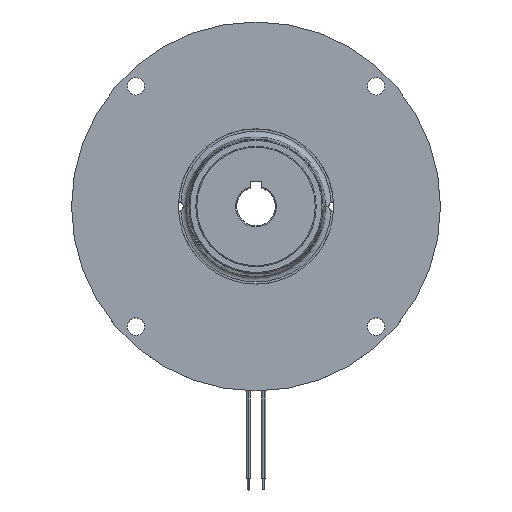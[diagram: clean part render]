
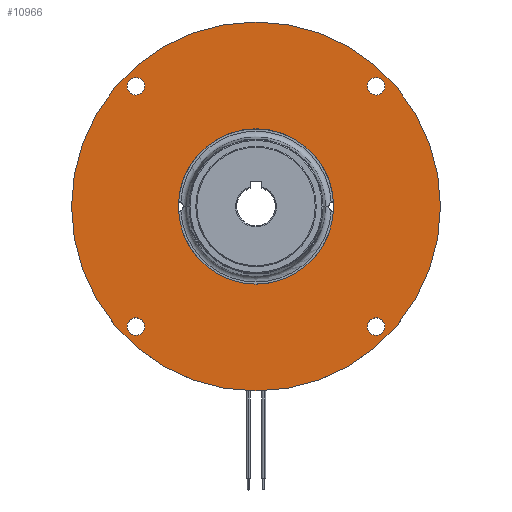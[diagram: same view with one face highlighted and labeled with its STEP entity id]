
A CAD part, top view. The second image highlights one B-rep face of the part: STEP entity #10966.
In plain terms, the highlighted planar face has unit normal (0, 0, 1).
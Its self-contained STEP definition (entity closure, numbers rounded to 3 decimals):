
#25 = EDGE_CURVE ( 'NONE', #9159, #13889, #7757, .T. ) ;
#135 = VERTEX_POINT ( 'NONE', #185 ) ;
#149 = AXIS2_PLACEMENT_3D ( 'NONE', #21875, #6255, #7965 ) ;
#185 = CARTESIAN_POINT ( 'NONE',  ( 57.372, -61.872, 0. ) ) ;
#233 = DIRECTION ( 'NONE',  ( 0., 0., -1. ) ) ;
#642 = DIRECTION ( 'NONE',  ( 0., 0., -1. ) ) ;
#804 = ORIENTED_EDGE ( 'NONE', *, *, #14001, .T. ) ;
#1045 = DIRECTION ( 'NONE',  ( -1., 0., 0. ) ) ;
#1101 = CARTESIAN_POINT ( 'NONE',  ( 61.872, -61.872, 0. ) ) ;
#1376 = EDGE_CURVE ( 'NONE', #15421, #135, #18754, .T. ) ;
#1396 = CARTESIAN_POINT ( 'NONE',  ( 0., 0., 0. ) ) ;
#1473 = FACE_BOUND ( 'NONE', #4017, .T. ) ;
#1585 = EDGE_CURVE ( 'NONE', #135, #15421, #7497, .T. ) ;
#2220 = EDGE_LOOP ( 'NONE', ( #16439, #22515 ) ) ;
#2371 = DIRECTION ( 'NONE',  ( -1., 0., 0. ) ) ;
#2484 = DIRECTION ( 'NONE',  ( 0., 0., -1. ) ) ;
#2611 = DIRECTION ( 'NONE',  ( -1., 0., 0. ) ) ;
#2654 = CIRCLE ( 'NONE', #9241, 4.5 ) ;
#2825 = CARTESIAN_POINT ( 'NONE',  ( 57.372, 61.872, 0. ) ) ;
#2868 = CARTESIAN_POINT ( 'NONE',  ( 0., 0., 0. ) ) ;
#2950 = AXIS2_PLACEMENT_3D ( 'NONE', #4101, #11066, #2371 ) ;
#3045 = CIRCLE ( 'NONE', #3406, 95. ) ;
#3086 = DIRECTION ( 'NONE',  ( 0., 0., -1. ) ) ;
#3406 = AXIS2_PLACEMENT_3D ( 'NONE', #8205, #19239, #19011 ) ;
#3747 = FACE_BOUND ( 'NONE', #2220, .T. ) ;
#3819 = EDGE_CURVE ( 'NONE', #15270, #8868, #22409, .T. ) ;
#3991 = CARTESIAN_POINT ( 'NONE',  ( 0., 95., 0. ) ) ;
#4017 = EDGE_LOOP ( 'NONE', ( #17779, #9995 ) ) ;
#4101 = CARTESIAN_POINT ( 'NONE',  ( -61.872, 61.872, 0. ) ) ;
#4764 = DIRECTION ( 'NONE',  ( -1., 0., 0. ) ) ;
#4948 = DIRECTION ( 'NONE',  ( -1., 0., 0. ) ) ;
#5161 = CARTESIAN_POINT ( 'NONE',  ( 61.872, 61.872, 0. ) ) ;
#5547 = DIRECTION ( 'NONE',  ( -1., 0., 0. ) ) ;
#5681 = CARTESIAN_POINT ( 'NONE',  ( 95., 0., 0. ) ) ;
#5733 = ORIENTED_EDGE ( 'NONE', *, *, #12919, .F. ) ;
#6036 = AXIS2_PLACEMENT_3D ( 'NONE', #5161, #8463, #13625 ) ;
#6075 = EDGE_CURVE ( 'NONE', #11269, #19839, #7521, .T. ) ;
#6131 = AXIS2_PLACEMENT_3D ( 'NONE', #17283, #7026, #13984 ) ;
#6255 = DIRECTION ( 'NONE',  ( 0., 0., -1. ) ) ;
#6321 = CARTESIAN_POINT ( 'NONE',  ( -57.372, -61.872, 0. ) ) ;
#6367 = DIRECTION ( 'NONE',  ( 0., 0., -1. ) ) ;
#6814 = ORIENTED_EDGE ( 'NONE', *, *, #1376, .T. ) ;
#6954 = CARTESIAN_POINT ( 'NONE',  ( -57.372, 61.872, 0. ) ) ;
#7026 = DIRECTION ( 'NONE',  ( 0., 0., -1. ) ) ;
#7074 = PLANE ( 'NONE',  #9771 ) ;
#7182 = EDGE_CURVE ( 'NONE', #13889, #9159, #16429, .T. ) ;
#7497 = CIRCLE ( 'NONE', #10040, 4.5 ) ;
#7521 = CIRCLE ( 'NONE', #10805, 95. ) ;
#7640 = EDGE_LOOP ( 'NONE', ( #22546, #14308 ) ) ;
#7757 = CIRCLE ( 'NONE', #21974, 4.5 ) ;
#7965 = DIRECTION ( 'NONE',  ( -1., 0., 0. ) ) ;
#8205 = CARTESIAN_POINT ( 'NONE',  ( 0., 0., 0. ) ) ;
#8463 = DIRECTION ( 'NONE',  ( 0., 0., -1. ) ) ;
#8526 = ORIENTED_EDGE ( 'NONE', *, *, #6075, .F. ) ;
#8547 = EDGE_LOOP ( 'NONE', ( #5733, #8526 ) ) ;
#8868 = VERTEX_POINT ( 'NONE', #2825 ) ;
#9131 = CARTESIAN_POINT ( 'NONE',  ( -66.372, -61.872, 0. ) ) ;
#9159 = VERTEX_POINT ( 'NONE', #15707 ) ;
#9241 = AXIS2_PLACEMENT_3D ( 'NONE', #15852, #233, #2611 ) ;
#9343 = CARTESIAN_POINT ( 'NONE',  ( -40., 0., 0. ) ) ;
#9413 = CIRCLE ( 'NONE', #6131, 4.5 ) ;
#9771 = AXIS2_PLACEMENT_3D ( 'NONE', #3991, #2484, #19475 ) ;
#9845 = DIRECTION ( 'NONE',  ( 0., 0., -1. ) ) ;
#9995 = ORIENTED_EDGE ( 'NONE', *, *, #7182, .T. ) ;
#10040 = AXIS2_PLACEMENT_3D ( 'NONE', #20199, #3086, #20417 ) ;
#10280 = FACE_BOUND ( 'NONE', #21973, .T. ) ;
#10729 = FACE_BOUND ( 'NONE', #12645, .T. ) ;
#10805 = AXIS2_PLACEMENT_3D ( 'NONE', #21158, #642, #5547 ) ;
#10966 = ADVANCED_FACE ( 'NONE', ( #3747, #10729, #10280, #1473, #17226, #13611 ), #7074, .F. ) ;
#11005 = VERTEX_POINT ( 'NONE', #9131 ) ;
#11066 = DIRECTION ( 'NONE',  ( 0., 0., -1. ) ) ;
#11269 = VERTEX_POINT ( 'NONE', #5681 ) ;
#11853 = DIRECTION ( 'NONE',  ( 0., 0., -1. ) ) ;
#12363 = EDGE_CURVE ( 'NONE', #15488, #22266, #21624, .T. ) ;
#12645 = EDGE_LOOP ( 'NONE', ( #22464, #6814 ) ) ;
#12732 = EDGE_CURVE ( 'NONE', #8868, #15270, #2654, .T. ) ;
#12919 = EDGE_CURVE ( 'NONE', #19839, #11269, #3045, .T. ) ;
#13184 = CARTESIAN_POINT ( 'NONE',  ( 40., 0., 0. ) ) ;
#13611 = FACE_BOUND ( 'NONE', #7640, .T. ) ;
#13625 = DIRECTION ( 'NONE',  ( -1., 0., 0. ) ) ;
#13889 = VERTEX_POINT ( 'NONE', #6954 ) ;
#13984 = DIRECTION ( 'NONE',  ( -1., 0., 0. ) ) ;
#14001 = EDGE_CURVE ( 'NONE', #18793, #11005, #17646, .T. ) ;
#14308 = ORIENTED_EDGE ( 'NONE', *, *, #21521, .T. ) ;
#14957 = CARTESIAN_POINT ( 'NONE',  ( -61.872, 61.872, 0. ) ) ;
#15185 = CARTESIAN_POINT ( 'NONE',  ( -95., 0., 0. ) ) ;
#15270 = VERTEX_POINT ( 'NONE', #22222 ) ;
#15421 = VERTEX_POINT ( 'NONE', #16511 ) ;
#15486 = AXIS2_PLACEMENT_3D ( 'NONE', #1101, #6367, #4764 ) ;
#15488 = VERTEX_POINT ( 'NONE', #9343 ) ;
#15557 = CIRCLE ( 'NONE', #19552, 40. ) ;
#15707 = CARTESIAN_POINT ( 'NONE',  ( -66.372, 61.872, 0. ) ) ;
#15852 = CARTESIAN_POINT ( 'NONE',  ( 61.872, 61.872, 0. ) ) ;
#16324 = DIRECTION ( 'NONE',  ( -1., 0., 0. ) ) ;
#16429 = CIRCLE ( 'NONE', #2950, 4.5 ) ;
#16439 = ORIENTED_EDGE ( 'NONE', *, *, #12732, .T. ) ;
#16511 = CARTESIAN_POINT ( 'NONE',  ( 66.372, -61.872, 0. ) ) ;
#16890 = AXIS2_PLACEMENT_3D ( 'NONE', #2868, #9845, #1045 ) ;
#17226 = FACE_OUTER_BOUND ( 'NONE', #8547, .T. ) ;
#17283 = CARTESIAN_POINT ( 'NONE',  ( -61.872, -61.872, 0. ) ) ;
#17646 = CIRCLE ( 'NONE', #149, 4.5 ) ;
#17779 = ORIENTED_EDGE ( 'NONE', *, *, #25, .T. ) ;
#18754 = CIRCLE ( 'NONE', #15486, 4.5 ) ;
#18793 = VERTEX_POINT ( 'NONE', #6321 ) ;
#19011 = DIRECTION ( 'NONE',  ( -1., 0., 0. ) ) ;
#19176 = DIRECTION ( 'NONE',  ( 0., 0., -1. ) ) ;
#19239 = DIRECTION ( 'NONE',  ( 0., 0., -1. ) ) ;
#19475 = DIRECTION ( 'NONE',  ( -1., 0., 0. ) ) ;
#19552 = AXIS2_PLACEMENT_3D ( 'NONE', #1396, #19176, #4948 ) ;
#19839 = VERTEX_POINT ( 'NONE', #15185 ) ;
#20199 = CARTESIAN_POINT ( 'NONE',  ( 61.872, -61.872, 0. ) ) ;
#20300 = ORIENTED_EDGE ( 'NONE', *, *, #22139, .T. ) ;
#20417 = DIRECTION ( 'NONE',  ( -1., 0., 0. ) ) ;
#21158 = CARTESIAN_POINT ( 'NONE',  ( 0., 0., 0. ) ) ;
#21521 = EDGE_CURVE ( 'NONE', #22266, #15488, #15557, .T. ) ;
#21624 = CIRCLE ( 'NONE', #16890, 40. ) ;
#21875 = CARTESIAN_POINT ( 'NONE',  ( -61.872, -61.872, 0. ) ) ;
#21973 = EDGE_LOOP ( 'NONE', ( #20300, #804 ) ) ;
#21974 = AXIS2_PLACEMENT_3D ( 'NONE', #14957, #11853, #16324 ) ;
#22139 = EDGE_CURVE ( 'NONE', #11005, #18793, #9413, .T. ) ;
#22222 = CARTESIAN_POINT ( 'NONE',  ( 66.372, 61.872, 0. ) ) ;
#22266 = VERTEX_POINT ( 'NONE', #13184 ) ;
#22409 = CIRCLE ( 'NONE', #6036, 4.5 ) ;
#22464 = ORIENTED_EDGE ( 'NONE', *, *, #1585, .T. ) ;
#22515 = ORIENTED_EDGE ( 'NONE', *, *, #3819, .T. ) ;
#22546 = ORIENTED_EDGE ( 'NONE', *, *, #12363, .T. ) ;
